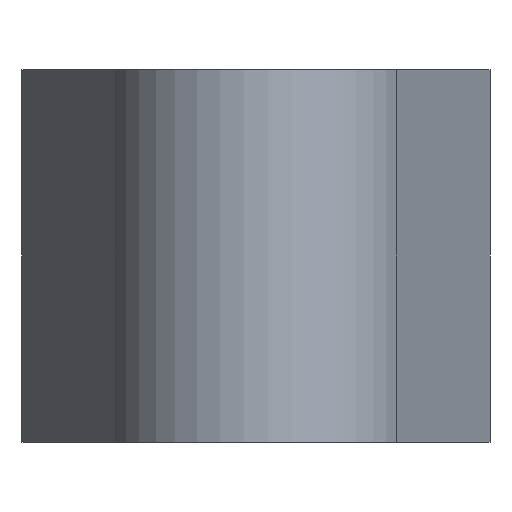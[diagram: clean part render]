
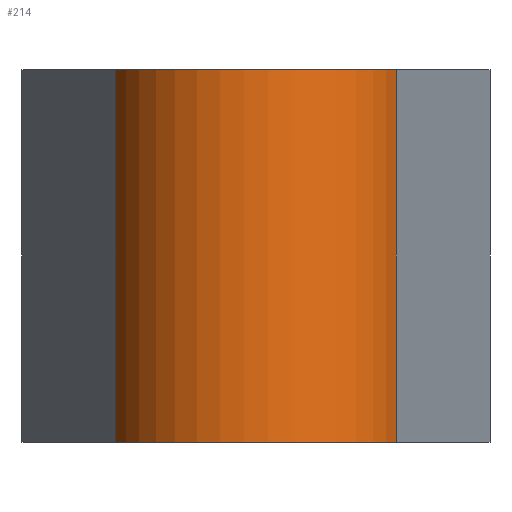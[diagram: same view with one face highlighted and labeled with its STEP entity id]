
A CAD part, left-side view. The second image highlights one B-rep face of the part: STEP entity #214.
In plain terms, the highlighted cylindrical face has radius 14 mm (diameter 28 mm), a partial arc.
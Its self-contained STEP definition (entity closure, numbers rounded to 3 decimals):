
#127=CYLINDRICAL_SURFACE('',#826,14.);
#156=CIRCLE('',#824,14.);
#157=CIRCLE('',#825,14.);
#214=ADVANCED_FACE('',(#271),#127,.T.);
#271=FACE_OUTER_BOUND('',#305,.T.);
#305=EDGE_LOOP('',(#383,#384,#385,#386));
#383=ORIENTED_EDGE('',*,*,#644,.T.);
#384=ORIENTED_EDGE('',*,*,#645,.F.);
#385=ORIENTED_EDGE('',*,*,#641,.F.);
#386=ORIENTED_EDGE('',*,*,#646,.T.);
#571=VERTEX_POINT('',#1192);
#572=VERTEX_POINT('',#1193);
#573=VERTEX_POINT('',#1198);
#574=VERTEX_POINT('',#1199);
#641=EDGE_CURVE('',#571,#572,#737,.T.);
#644=EDGE_CURVE('',#573,#574,#740,.T.);
#645=EDGE_CURVE('',#572,#574,#156,.T.);
#646=EDGE_CURVE('',#571,#573,#157,.T.);
#737=LINE('',#1191,#781);
#740=LINE('',#1197,#784);
#781=VECTOR('',#945,1.);
#784=VECTOR('',#950,1.);
#824=AXIS2_PLACEMENT_3D('',#1200,#951,#952);
#825=AXIS2_PLACEMENT_3D('',#1201,#953,#954);
#826=AXIS2_PLACEMENT_3D('',#1202,#955,#956);
#945=DIRECTION('',(0.,0.,1.));
#950=DIRECTION('',(0.,0.,1.));
#951=DIRECTION('',(0.,0.,1.));
#952=DIRECTION('',(1.,0.,0.));
#953=DIRECTION('',(0.,0.,1.));
#954=DIRECTION('',(1.,0.,0.));
#955=DIRECTION('',(0.,0.,1.));
#956=DIRECTION('',(-1.,0.,0.));
#1191=CARTESIAN_POINT('',(-4.704,13.186,0.));
#1192=CARTESIAN_POINT('',(-4.704,13.186,0.));
#1193=CARTESIAN_POINT('',(-4.704,13.186,35.));
#1197=CARTESIAN_POINT('',(-4.704,-13.186,0.));
#1198=CARTESIAN_POINT('',(-4.704,-13.186,0.));
#1199=CARTESIAN_POINT('',(-4.704,-13.186,35.));
#1200=CARTESIAN_POINT('',(0.,0.,35.));
#1201=CARTESIAN_POINT('',(0.,0.,0.));
#1202=CARTESIAN_POINT('',(0.,0.,0.));
